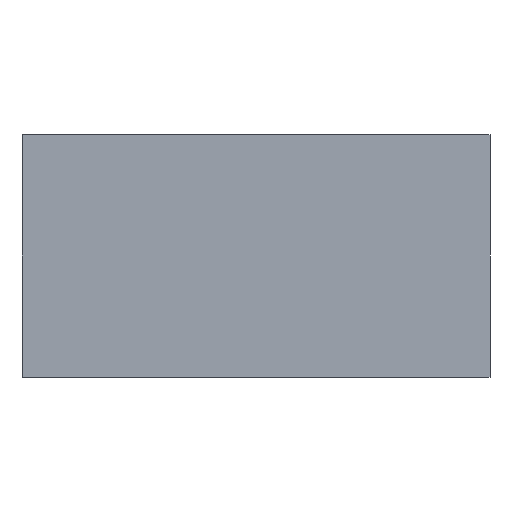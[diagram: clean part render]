
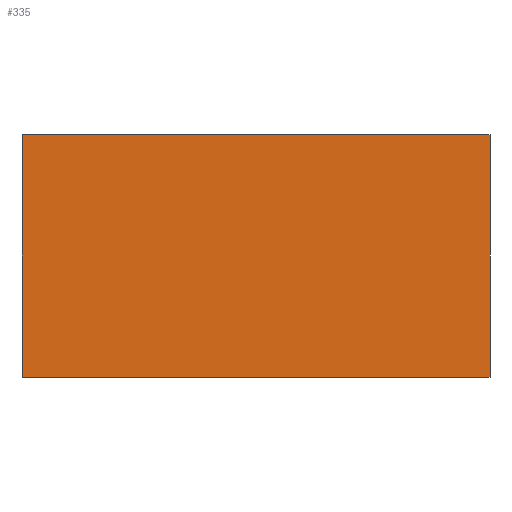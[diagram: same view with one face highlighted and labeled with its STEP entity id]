
A CAD part, front view. The second image highlights one B-rep face of the part: STEP entity #335.
In plain terms, the highlighted planar face has unit normal (0, -1, 0).
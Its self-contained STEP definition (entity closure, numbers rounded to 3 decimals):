
#49 = VERTEX_POINT ( 'NONE', #133 ) ;
#78 = CARTESIAN_POINT ( 'NONE',  ( 19.304, 0., -10. ) ) ;
#79 = VERTEX_POINT ( 'NONE', #370 ) ;
#80 = VECTOR ( 'NONE', #315, 1000. ) ;
#86 = DIRECTION ( 'NONE',  ( 1., 0., 0. ) ) ;
#87 = EDGE_LOOP ( 'NONE', ( #283, #239, #157, #394 ) ) ;
#92 = DIRECTION ( 'NONE',  ( 0., 0., -1. ) ) ;
#104 = CARTESIAN_POINT ( 'NONE',  ( 19.304, 0., -10. ) ) ;
#108 = DIRECTION ( 'NONE',  ( 1., 0., 0. ) ) ;
#114 = FACE_OUTER_BOUND ( 'NONE', #87, .T. ) ;
#125 = VERTEX_POINT ( 'NONE', #227 ) ;
#133 = CARTESIAN_POINT ( 'NONE',  ( 19.304, 0., -10. ) ) ;
#157 = ORIENTED_EDGE ( 'NONE', *, *, #190, .T. ) ;
#190 = EDGE_CURVE ( 'NONE', #479, #49, #458, .T. ) ;
#204 = AXIS2_PLACEMENT_3D ( 'NONE', #244, #398, #92 ) ;
#224 = VECTOR ( 'NONE', #108, 1000. ) ;
#227 = CARTESIAN_POINT ( 'NONE',  ( 0., 0., 0. ) ) ;
#239 = ORIENTED_EDGE ( 'NONE', *, *, #288, .F. ) ;
#244 = CARTESIAN_POINT ( 'NONE',  ( 19.304, 0., -10. ) ) ;
#283 = ORIENTED_EDGE ( 'NONE', *, *, #320, .F. ) ;
#288 = EDGE_CURVE ( 'NONE', #479, #125, #330, .T. ) ;
#307 = EDGE_CURVE ( 'NONE', #49, #79, #427, .T. ) ;
#315 = DIRECTION ( 'NONE',  ( 0., 0., 1. ) ) ;
#320 = EDGE_CURVE ( 'NONE', #125, #79, #436, .T. ) ;
#322 = PLANE ( 'NONE',  #204 ) ;
#330 = LINE ( 'NONE', #359, #80 ) ;
#335 = ADVANCED_FACE ( 'NONE', ( #114 ), #322, .T. ) ;
#359 = CARTESIAN_POINT ( 'NONE',  ( 0., 0., -10. ) ) ;
#370 = CARTESIAN_POINT ( 'NONE',  ( 19.304, 0., 0. ) ) ;
#393 = DIRECTION ( 'NONE',  ( 0., 0., 1. ) ) ;
#394 = ORIENTED_EDGE ( 'NONE', *, *, #307, .T. ) ;
#398 = DIRECTION ( 'NONE',  ( 0., -1., 0. ) ) ;
#427 = LINE ( 'NONE', #78, #484 ) ;
#436 = LINE ( 'NONE', #482, #490 ) ;
#458 = LINE ( 'NONE', #104, #224 ) ;
#479 = VERTEX_POINT ( 'NONE', #489 ) ;
#482 = CARTESIAN_POINT ( 'NONE',  ( 19.304, 0., 0. ) ) ;
#484 = VECTOR ( 'NONE', #393, 1000. ) ;
#489 = CARTESIAN_POINT ( 'NONE',  ( 0., 0., -10. ) ) ;
#490 = VECTOR ( 'NONE', #86, 1000. ) ;
